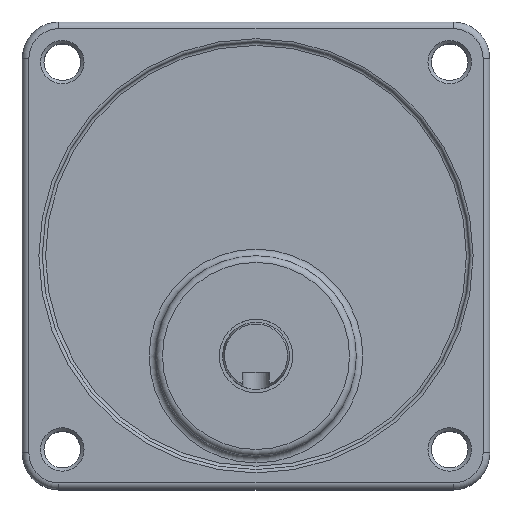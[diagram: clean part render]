
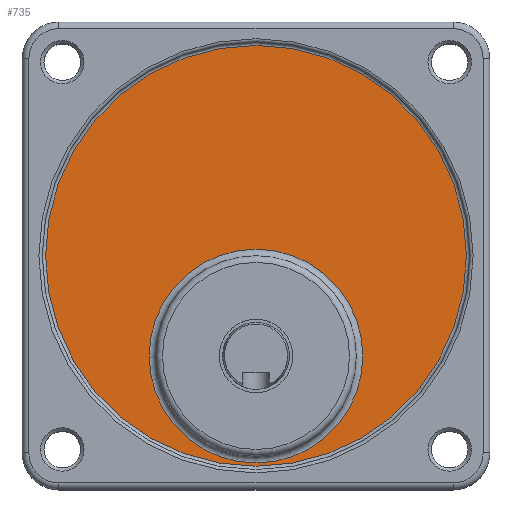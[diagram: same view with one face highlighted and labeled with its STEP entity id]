
A CAD part, top view. The second image highlights one B-rep face of the part: STEP entity #735.
In plain terms, the highlighted planar face has unit normal (0, 0, 1).
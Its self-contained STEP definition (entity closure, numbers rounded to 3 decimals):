
#684=CARTESIAN_POINT('',(51.,20.0,31.0));
#685=VERTEX_POINT('',#684);
#686=CARTESIAN_POINT('',(35.,20.0,31.0));
#687=DIRECTION('',(0.0,0.0,1.0));
#688=DIRECTION('',(-1.0,0.0,0.0));
#689=AXIS2_PLACEMENT_3D('',#686,#687,#688);
#690=CIRCLE('',#689,16.0);
#691=EDGE_CURVE('',#685,#685,#690,.T.);
#716=CARTESIAN_POINT('',(35.,35.0,31.0));
#717=DIRECTION('',(0.0,0.0,-1.0));
#718=DIRECTION('',(-1.0,0.0,0.0));
#719=AXIS2_PLACEMENT_3D('',#716,#717,#718);
#720=PLANE('',#719);
#721=CARTESIAN_POINT('',(66.5,35.,31.0));
#722=VERTEX_POINT('',#721);
#723=CARTESIAN_POINT('',(35.,35.0,31.0));
#724=DIRECTION('',(0.0,0.0,-1.0));
#725=DIRECTION('',(-1.0,0.0,0.0));
#726=AXIS2_PLACEMENT_3D('',#723,#724,#725);
#727=CIRCLE('',#726,31.5);
#728=EDGE_CURVE('',#722,#722,#727,.T.);
#729=ORIENTED_EDGE('',*,*,#728,.F.);
#730=EDGE_LOOP('',(#729));
#731=FACE_OUTER_BOUND('',#730,.T.);
#732=ORIENTED_EDGE('',*,*,#691,.F.);
#733=EDGE_LOOP('',(#732));
#734=FACE_BOUND('',#733,.T.);
#735=ADVANCED_FACE('',(#731,#734),#720,.F.);
